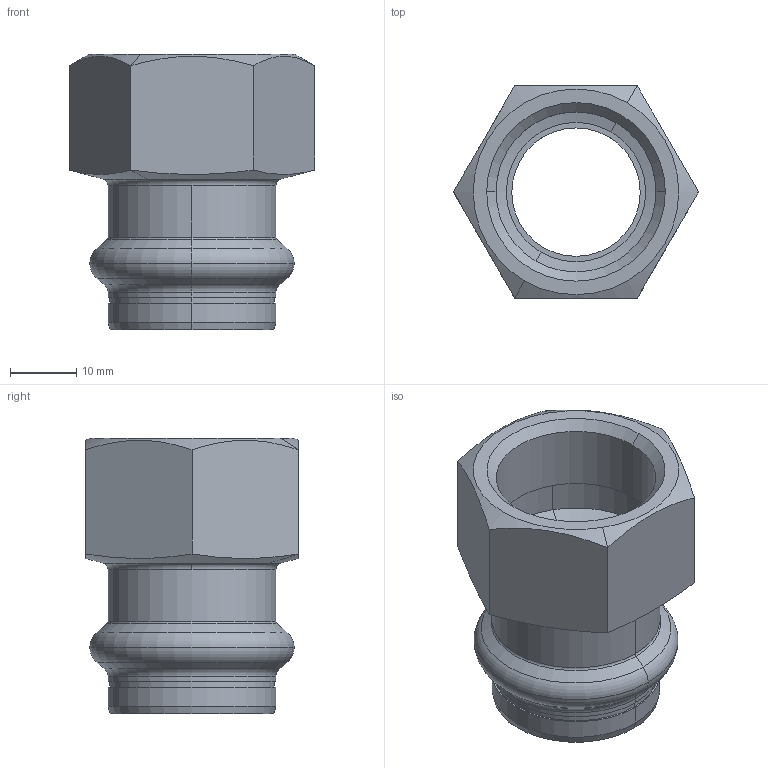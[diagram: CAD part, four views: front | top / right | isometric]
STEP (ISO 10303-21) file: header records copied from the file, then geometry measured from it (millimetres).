
FILE_DESCRIPTION(('CoCreate Modeling STEP Export'),'2;1');
FILE_NAME('8270GVW2234.stp','2013-03-05T11:08:07',(''),(''),'CoCreate Modeling STEP processor for AP214 (Solid Model)','CoCreate Modeling 17.00A 17-Jun-2010 (C) Parametric Technology GmbH','');
FILE_SCHEMA(('AUTOMOTIVE_DESIGN { 1 0 10303 214 1 1 1 1 }'));
Length unit declared in the file: millimetre
Products named in the file (2): 8270GVW2234
Assembly tree (1 placements, depth 2):
  8270GVW2234
    8270GVW2234
Bounding box: 36.95 x 32 x 41.5 mm (x, y, z)
Volume: 11113.1 mm3; surface area: 8333.6 mm2
Topology: 1 solids, 1 shells, 62 faces, 145 edges, 89 vertices
Faces by surface type: cylinder 20, cone 20, plane 12, torus 10
Entity records: 2272 total; most frequent: CARTESIAN_POINT 1017, ORIENTED_EDGE 290, DIRECTION 202, EDGE_CURVE 145, VERTEX_POINT 89, AXIS2_PLACEMENT_3D 78, EDGE_LOOP 68, FACE_OUTER_BOUND 62
